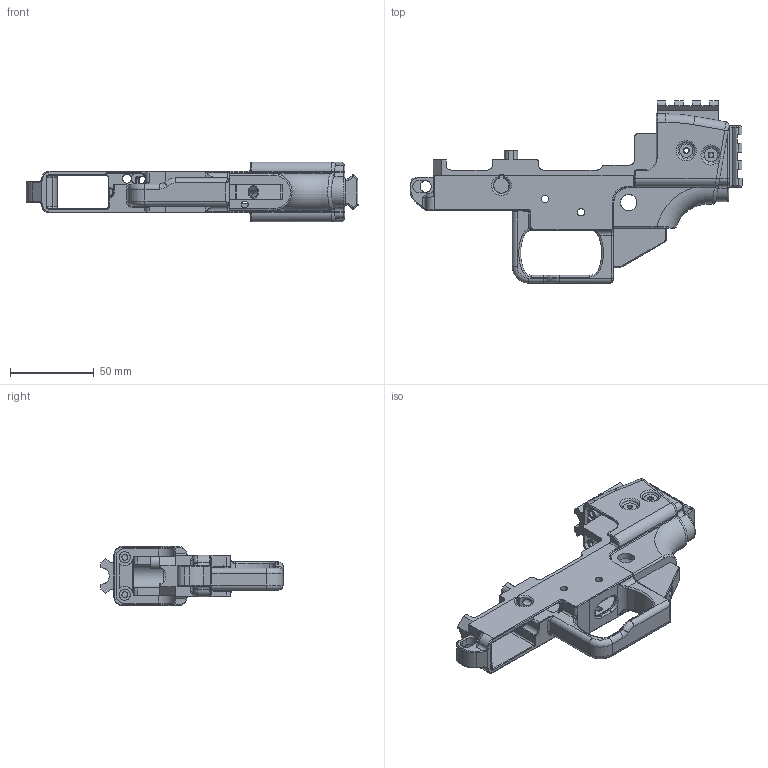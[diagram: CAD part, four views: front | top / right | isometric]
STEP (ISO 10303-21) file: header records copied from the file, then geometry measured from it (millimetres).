
FILE_DESCRIPTION(/* description */ (''),/* implementation_level */ '2;1');
FILE_NAME(/* name */ 'G:/Developer/Repos/VZ61/STEP/VZ61 Skorpion AR Trigger v19.step',/* time_stamp */ '2020-10-12T22:31:07-04:00',/* author */ (''),/* organization */ (''),/* preprocessor_version */ 'ST-DEVELOPER v18.1',/* originating_system */ 'Autodesk Translation Framework v9.3.0.1241',/* authorisation */ '');
FILE_SCHEMA (('AUTOMOTIVE_DESIGN { 1 0 10303 214 3 1 1 }'));
Length unit declared in the file: millimetre
Products named in the file (5): VZ61 Skorpion AR Trigger; Default; Adapters; Angled Plate; 90 Degree
Assembly tree (4 placements, depth 4):
  VZ61 Skorpion AR Trigger
    Default
    Adapters
      Angled Plate
        90 Degree
Bounding box: 198.2 x 108.81 x 35.48 mm (x, y, z)
Volume: 139871.3 mm3; surface area: 57921.5 mm2
Topology: 4 solids, 4 shells, 707 faces, 1821 edges, 1104 vertices
Faces by surface type: cylinder 265, plane 241, torus 106, bspline 72, sphere 13, cone 10
Full cylindrical faces by diameter (mm): 2.946 x1, 3 x7, 3.5 x1, 3.556 x2, 4 x1, 4.35 x4, 5.461 x1, 5.5 x1, 6.75 x1, 9.85 x2, 27 x1, 27.5 x1
Entity records: 27169 total; most frequent: CARTESIAN_POINT 9853, DIRECTION 3660, ORIENTED_EDGE 3618, EDGE_CURVE 1809, AXIS2_PLACEMENT_3D 1388, VERTEX_POINT 1103, LINE 884, VECTOR 884
